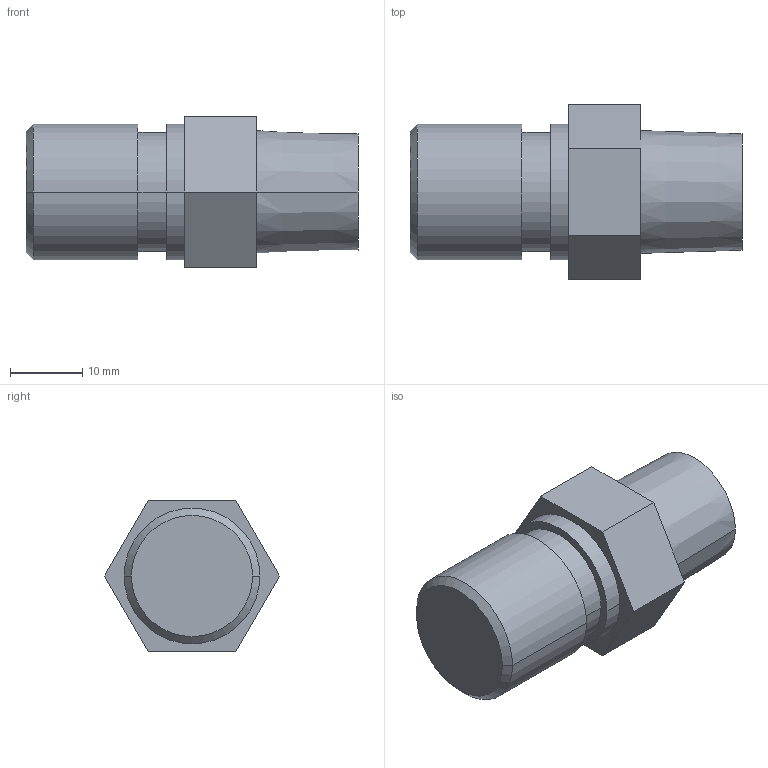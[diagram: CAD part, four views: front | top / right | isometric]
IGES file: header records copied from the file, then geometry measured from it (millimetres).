
Global section: file name: No Iges File Name specified; native system: Autodesk Inventor 2009; preprocessor: AutoDesk Inventor Iges Exporter R2009; author: y-shimohigashi; date: 20080702.105543; units: millimetre
Bounding box: 46 x 24.25 x 21 mm (x, y, z)
Volume: 12659.6 mm3; surface area: 3559.4 mm2
Topology: 1 solids, 1 shells, 22 faces, 46 edges, 30 vertices
Faces by surface type: plane 12, cylinder 6, cone 4
